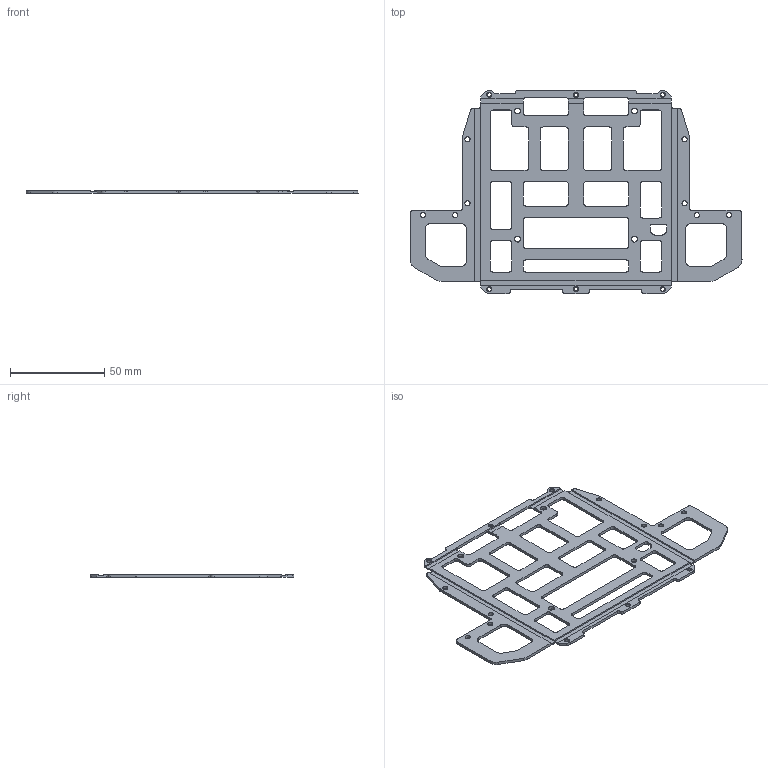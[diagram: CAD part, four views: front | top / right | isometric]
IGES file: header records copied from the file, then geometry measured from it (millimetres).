
Global section: file name: C:\Users\Knabe\Documents\Classes\8 Semester 8\DARwIn\Deliverables\DARwIn OP\DARwIn OP Part Files\CAD 2D\2D IGS\4_PR13_B01_FRM_PCB_MAIN_T.igs; native system: NX V7.0; preprocessor: SIEMENS PLM Software NX 7.0; date: 20110525.172256; units: millimetre
Bounding box: 176.13 x 108.13 x 1.5 mm (x, y, z)
Surface area: 19906.5 mm2 (no closed solid volume)
Topology: 0 solids, 0 shells, 326 faces, 2284 edges, 2308 vertices
Faces by surface type: bspline 326
